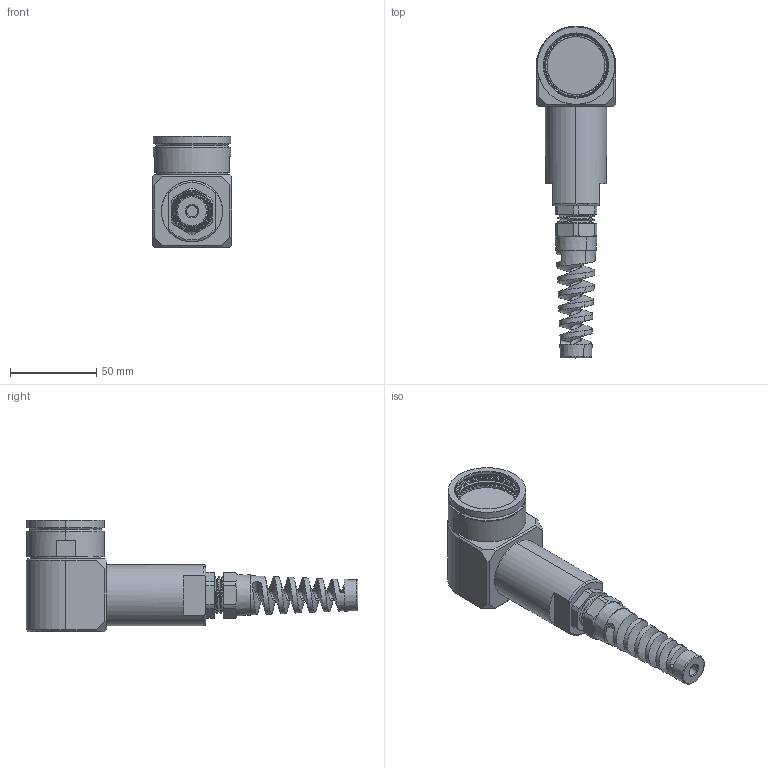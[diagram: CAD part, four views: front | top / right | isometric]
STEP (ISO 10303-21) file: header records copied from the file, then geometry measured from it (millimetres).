
FILE_DESCRIPTION (( 'STEP AP214' ), '1' );
FILE_NAME ('Q38EBSHELL-90X-25-XXXX-GB.STEP', '2025-09-22T15:21:08', ( '' ), ( '' ), 'SwSTEP 2.0', 'SolidWorks 2024', '' );
FILE_SCHEMA (( 'AUTOMOTIVE_DESIGN' ));
Length unit declared in the file: millimetre
Products named in the file (1): Q38EBSHELL-90X-25-XXXX-GB
Bounding box: 45.9 x 192.14 x 64.26 mm (x, y, z)
Volume: 179400.7 mm3; surface area: 34439.3 mm2
Topology: 2 solids, 4 shells, 388 faces, 1181 edges, 818 vertices
Faces by surface type: plane 237, cylinder 80, cone 46, torus 13, bspline 12
Entity records: 19840 total; most frequent: CARTESIAN_POINT 9963, ORIENTED_EDGE 2362, DIRECTION 1813, EDGE_CURVE 1181, VERTEX_POINT 818, AXIS2_PLACEMENT_3D 721, EDGE_LOOP 409, FACE_OUTER_BOUND 388
